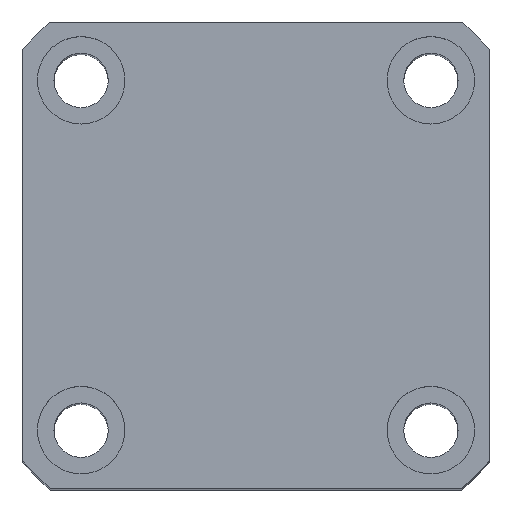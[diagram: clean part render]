
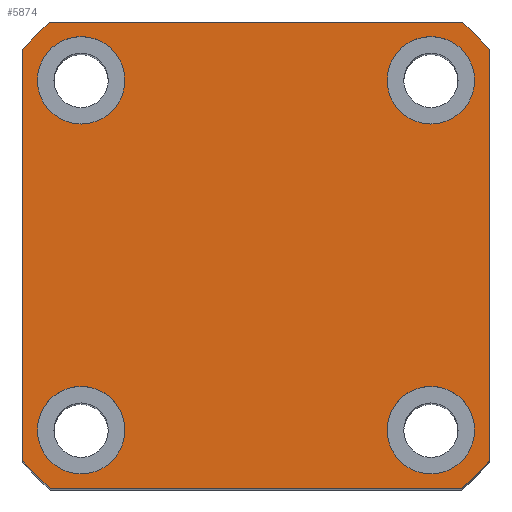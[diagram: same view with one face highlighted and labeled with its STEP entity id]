
A CAD part, top view. The second image highlights one B-rep face of the part: STEP entity #5874.
In plain terms, the highlighted planar face has unit normal (0, 0, 1).
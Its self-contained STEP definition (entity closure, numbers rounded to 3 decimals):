
#2873=LINE('',#16051,#3729);
#2877=LINE('',#16329,#3733);
#2881=LINE('',#16338,#3737);
#2885=LINE('',#16347,#3741);
#3729=VECTOR('',#12079,1.);
#3733=VECTOR('',#12197,1.);
#3737=VECTOR('',#12203,1.);
#3741=VECTOR('',#12209,1.);
#4711=PLANE('',#11669);
#5874=ADVANCED_FACE('',(#6377,#6378,#6379,#6380,#6381),#4711,.T.);
#6377=FACE_BOUND('',#6564,.T.);
#6378=FACE_BOUND('',#6565,.T.);
#6379=FACE_BOUND('',#6566,.T.);
#6380=FACE_BOUND('',#6567,.T.);
#6381=FACE_BOUND('',#6568,.T.);
#6564=EDGE_LOOP('',(#7197));
#6565=EDGE_LOOP('',(#7198));
#6566=EDGE_LOOP('',(#7199));
#6567=EDGE_LOOP('',(#7200));
#6568=EDGE_LOOP('',(#7201,#7202,#7203,#7204,#7205,#7206,#7207,#7208));
#7197=ORIENTED_EDGE('',*,*,#10353,.F.);
#7198=ORIENTED_EDGE('',*,*,#10355,.F.);
#7199=ORIENTED_EDGE('',*,*,#10357,.F.);
#7200=ORIENTED_EDGE('',*,*,#10359,.F.);
#7201=ORIENTED_EDGE('',*,*,#10374,.T.);
#7202=ORIENTED_EDGE('',*,*,#10385,.T.);
#7203=ORIENTED_EDGE('',*,*,#10330,.T.);
#7204=ORIENTED_EDGE('',*,*,#10386,.T.);
#7205=ORIENTED_EDGE('',*,*,#10378,.T.);
#7206=ORIENTED_EDGE('',*,*,#10387,.T.);
#7207=ORIENTED_EDGE('',*,*,#10382,.T.);
#7208=ORIENTED_EDGE('',*,*,#10388,.T.);
#9496=VERTEX_POINT('',#16049);
#9498=VERTEX_POINT('',#16052);
#9520=VERTEX_POINT('',#16278);
#9522=VERTEX_POINT('',#16283);
#9524=VERTEX_POINT('',#16288);
#9526=VERTEX_POINT('',#16293);
#9539=VERTEX_POINT('',#16327);
#9541=VERTEX_POINT('',#16330);
#9543=VERTEX_POINT('',#16336);
#9545=VERTEX_POINT('',#16339);
#9547=VERTEX_POINT('',#16345);
#9549=VERTEX_POINT('',#16348);
#10330=EDGE_CURVE('',#9498,#9496,#2873,.T.);
#10353=EDGE_CURVE('',#9520,#9520,#11521,.T.);
#10355=EDGE_CURVE('',#9522,#9522,#11523,.T.);
#10357=EDGE_CURVE('',#9524,#9524,#11525,.T.);
#10359=EDGE_CURVE('',#9526,#9526,#11527,.T.);
#10374=EDGE_CURVE('',#9541,#9539,#2877,.T.);
#10378=EDGE_CURVE('',#9545,#9543,#2881,.T.);
#10382=EDGE_CURVE('',#9549,#9547,#2885,.T.);
#10385=EDGE_CURVE('',#9539,#9498,#11541,.T.);
#10386=EDGE_CURVE('',#9496,#9545,#11542,.T.);
#10387=EDGE_CURVE('',#9543,#9549,#11543,.T.);
#10388=EDGE_CURVE('',#9547,#9541,#11544,.T.);
#11521=CIRCLE('',#11632,4.5);
#11523=CIRCLE('',#11635,4.5);
#11525=CIRCLE('',#11638,4.5);
#11527=CIRCLE('',#11641,4.5);
#11541=CIRCLE('',#11665,32.);
#11542=CIRCLE('',#11666,32.);
#11543=CIRCLE('',#11667,32.);
#11544=CIRCLE('',#11668,32.);
#11632=AXIS2_PLACEMENT_3D('',#16277,#12136,#12137);
#11635=AXIS2_PLACEMENT_3D('',#16282,#12142,#12143);
#11638=AXIS2_PLACEMENT_3D('',#16287,#12148,#12149);
#11641=AXIS2_PLACEMENT_3D('',#16292,#12154,#12155);
#11665=AXIS2_PLACEMENT_3D('',#16353,#12214,#12215);
#11666=AXIS2_PLACEMENT_3D('',#16354,#12216,#12217);
#11667=AXIS2_PLACEMENT_3D('',#16355,#12218,#12219);
#11668=AXIS2_PLACEMENT_3D('',#16356,#12220,#12221);
#11669=AXIS2_PLACEMENT_3D('',#16357,#12222,#12223);
#12079=DIRECTION('',(-1.,0.,0.));
#12136=DIRECTION('',(0.,0.,1.));
#12137=DIRECTION('',(1.,0.,0.));
#12142=DIRECTION('',(0.,0.,1.));
#12143=DIRECTION('',(1.,0.,0.));
#12148=DIRECTION('',(0.,0.,1.));
#12149=DIRECTION('',(1.,0.,0.));
#12154=DIRECTION('',(0.,0.,1.));
#12155=DIRECTION('',(1.,0.,0.));
#12197=DIRECTION('',(0.,1.,0.));
#12203=DIRECTION('',(0.,-1.,0.));
#12209=DIRECTION('',(1.,0.,0.));
#12214=DIRECTION('',(0.,0.,1.));
#12215=DIRECTION('',(1.,0.,0.));
#12216=DIRECTION('',(0.,0.,1.));
#12217=DIRECTION('',(1.,0.,0.));
#12218=DIRECTION('',(0.,0.,1.));
#12219=DIRECTION('',(1.,0.,0.));
#12220=DIRECTION('',(0.,0.,1.));
#12221=DIRECTION('',(1.,0.,0.));
#12222=DIRECTION('',(0.,0.,1.));
#12223=DIRECTION('',(-1.,0.,0.));
#16049=CARTESIAN_POINT('',(-119.061,62.127,110.662));
#16051=CARTESIAN_POINT('',(-121.895,62.127,110.662));
#16052=CARTESIAN_POINT('',(-76.729,62.127,110.662));
#16277=CARTESIAN_POINT('',(-79.895,20.127,110.662));
#16278=CARTESIAN_POINT('',(-75.395,20.127,110.662));
#16282=CARTESIAN_POINT('',(-115.895,20.127,110.662));
#16283=CARTESIAN_POINT('',(-111.395,20.127,110.662));
#16287=CARTESIAN_POINT('',(-79.895,56.127,110.662));
#16288=CARTESIAN_POINT('',(-75.395,56.127,110.662));
#16292=CARTESIAN_POINT('',(-115.895,56.127,110.662));
#16293=CARTESIAN_POINT('',(-111.395,56.127,110.662));
#16327=CARTESIAN_POINT('',(-73.895,59.293,110.662));
#16329=CARTESIAN_POINT('',(-73.895,62.127,110.662));
#16330=CARTESIAN_POINT('',(-73.895,16.961,110.662));
#16336=CARTESIAN_POINT('',(-121.895,16.961,110.662));
#16338=CARTESIAN_POINT('',(-121.895,62.127,110.662));
#16339=CARTESIAN_POINT('',(-121.895,59.293,110.662));
#16345=CARTESIAN_POINT('',(-76.729,14.127,110.662));
#16347=CARTESIAN_POINT('',(-121.895,14.127,110.662));
#16348=CARTESIAN_POINT('',(-119.061,14.127,110.662));
#16353=CARTESIAN_POINT('',(-97.895,38.127,110.662));
#16354=CARTESIAN_POINT('',(-97.895,38.127,110.662));
#16355=CARTESIAN_POINT('',(-97.895,38.127,110.662));
#16356=CARTESIAN_POINT('',(-97.895,38.127,110.662));
#16357=CARTESIAN_POINT('',(-97.895,38.127,110.662));
